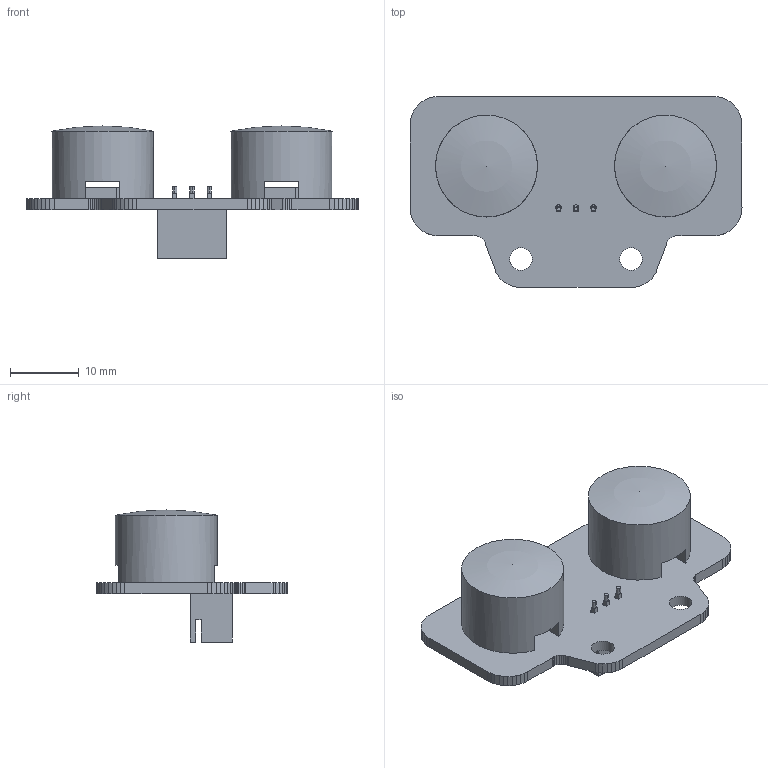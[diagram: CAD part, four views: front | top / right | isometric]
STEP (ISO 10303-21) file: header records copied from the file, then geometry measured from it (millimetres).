
FILE_DESCRIPTION(('Open CASCADE Model'),'2;1');
FILE_NAME('Open CASCADE Shape Model','2024-09-14T02:09:01',('Author'),( 'Open CASCADE'),'Open CASCADE STEP processor 6.5','Open CASCADE 6.5' ,'Unknown');
FILE_SCHEMA(('AUTOMOTIVE_DESIGN { 1 0 10303 214 1 1 1 1 }'));
Length unit declared in the file: millimetre
Products named in the file (12): PCB; Board; P1; SW3dPS-XH-A-1; C1; User_Library-0603(1608M)_Cap; C2; D1; LED匢腑; D2; Free-Models; 芵噩
Assembly tree (14 placements, depth 3):
  PCB
    Board
    P1
      SW3dPS-XH-A-1
    C1
      User_Library-0603(1608M)_Cap
    C2
      User_Library-0603(1608M)_Cap
    D1
      LED匢腑
    D2
      LED匢腑
    Free-Models
      芵噩  x2
Bounding box: 48.23 x 27.73 x 19.18 mm (x, y, z)
Volume: 3326.5 mm3; surface area: 5996 mm2
Topology: 22 solids, 22 shells, 599 faces, 1539 edges, 984 vertices
Faces by surface type: plane 366, bspline 144, cylinder 85, sphere 4
Full cylindrical faces by diameter (mm): 0.8 x3, 3.3 x2, 12.8 x2, 14.8 x2
Entity records: 31074 total; most frequent: CARTESIAN_POINT 10646, DIRECTION 2989, LINE 2053, VECTOR 2053, ORIENTED_EDGE 2002, PCURVE 2002, DEFINITIONAL_REPRESENTATION 2002, EDGE_CURVE 1001
